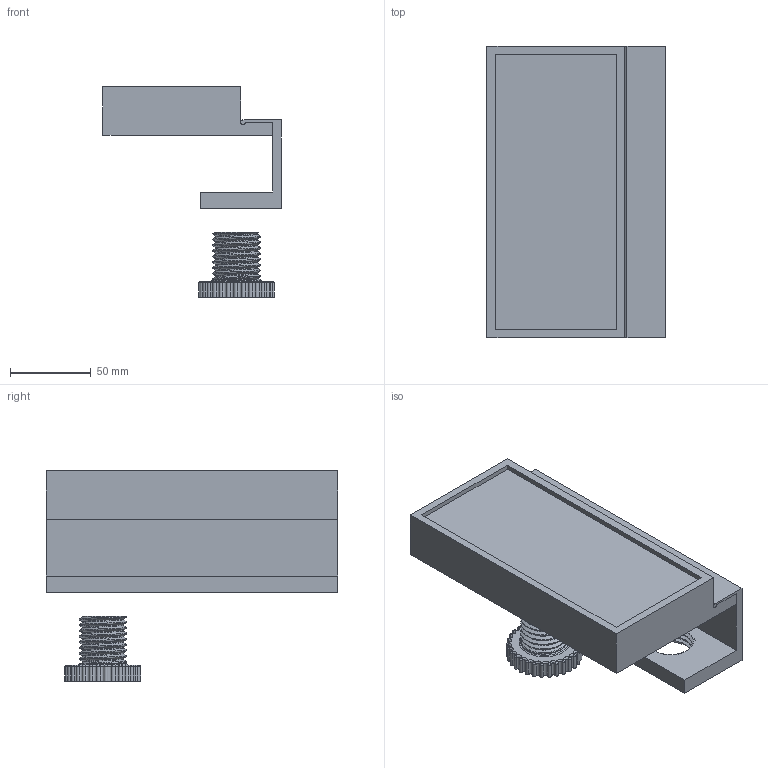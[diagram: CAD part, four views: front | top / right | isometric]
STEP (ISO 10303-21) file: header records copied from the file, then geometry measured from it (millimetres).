
FILE_DESCRIPTION(/* description */ (''),/* implementation_level */ '2;1');
FILE_NAME(/* name */ 'Diamond_plate_Mk3.step',/* time_stamp */ '2025-12-15T08:23:41-05:00',/* author */ (''),/* organization */ (''),/* preprocessor_version */ 'ST-DEVELOPER v20.1',/* originating_system */ 'Autodesk Translation Framework v14.21.0.0',/* authorisation */ '');
FILE_SCHEMA (('AUTOMOTIVE_DESIGN { 1 0 10303 214 3 1 1 }'));
Length unit declared in the file: millimetre
Products named in the file (1): Diamond_plate_Mk3
Bounding box: 110 x 180 x 130 mm (x, y, z)
Volume: 605862.6 mm3; surface area: 111898 mm2
Topology: 3 solids, 3 shells, 188 faces, 479 edges, 299 vertices
Faces by surface type: cylinder 87, bspline 41, torus 34, plane 26
Full cylindrical faces by diameter (mm): 25.432 x7, 26.791 x4, 30.692 x4
Entity records: 11250 total; most frequent: CARTESIAN_POINT 6744, DIRECTION 965, ORIENTED_EDGE 958, EDGE_CURVE 479, AXIS2_PLACEMENT_3D 416, VERTEX_POINT 299, CIRCLE 268, EDGE_LOOP 194
